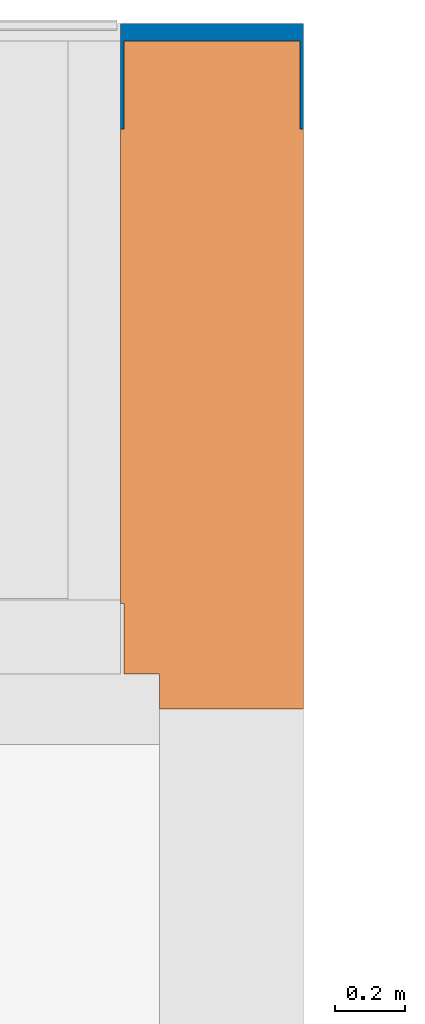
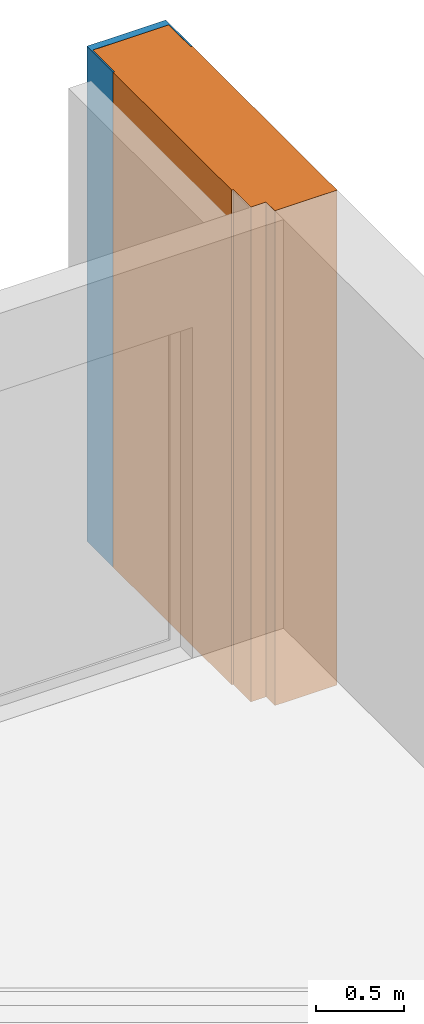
# One storey, part 67 of 67: 1 proxy, 1 wall, 1 opening.
"""IFC2X3 building model written with IfcOpenShell, lengths in millimetres."""

from ifc_helpers import new_model, entity, si_unit, converted_unit, derived_unit, money_unit, direction, frame, origin_with_axes, origin_2d_with_axis, place, context, subcontext, project, spatial, rectangle, extrude, faceted_brep, material, material_list, type_object, element, fill, save


model = new_model("IFC2X3")

# Units and contexts
model_context = context("Model", 3, precision=0.01, world=origin_with_axes(), true_north=direction((0.34421633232, 0.938890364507)))
body_context = subcontext(model_context, "Body", "Model", "MODEL_VIEW")
ifc_project = project(units=[si_unit("LENGTHUNIT", "METRE", prefix="MILLI"), si_unit("AREAUNIT", "SQUARE_METRE"), si_unit("VOLUMEUNIT", "CUBIC_METRE"), converted_unit("PLANEANGLEUNIT", "DEGREE", entity("IfcPlaneAngleMeasure", 0.0174532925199), si_unit("PLANEANGLEUNIT", "RADIAN"), dimensions=[0, 0, 0, 0, 0, 0, 0]), si_unit("SOLIDANGLEUNIT", "STERADIAN"), money_unit("USD"), converted_unit("TIMEUNIT", "Year", entity("IfcTimeMeasure", 31556926.0), si_unit("TIMEUNIT", "SECOND"), dimensions=[0, 0, 1, 0, 0, 0, 0]), si_unit("MASSUNIT", "GRAM", prefix="KILO"), si_unit("THERMODYNAMICTEMPERATUREUNIT", "DEGREE_CELSIUS"), si_unit("LUMINOUSINTENSITYUNIT", "LUMEN"), si_unit("ENERGYUNIT", "JOULE", prefix="MEGA"), derived_unit("THERMALCONDUCTANCEUNIT", [(si_unit("POWERUNIT", "WATT"), 1), (si_unit("LENGTHUNIT", "METRE"), -1), (si_unit("THERMODYNAMICTEMPERATUREUNIT", "KELVIN"), -1)]), derived_unit("SPECIFICHEATCAPACITYUNIT", [(si_unit("ENERGYUNIT", "JOULE"), 1), (si_unit("MASSUNIT", "GRAM", prefix="KILO"), -1), (si_unit("THERMODYNAMICTEMPERATUREUNIT", "KELVIN"), -1)]), derived_unit("MASSDENSITYUNIT", [(si_unit("MASSUNIT", "GRAM", prefix="KILO"), 1), (si_unit("VOLUMEUNIT", "CUBIC_METRE"), -1)])], contexts=[model_context])

# Site, building, storey
site_placement = place(None, origin_with_axes())
site = spatial("IfcSite", under=ifc_project, at=site_placement, Name="USTRONIE MORSKIE", CompositionType="ELEMENT")
building_placement = place(site_placement, origin_with_axes())
building = spatial("IfcBuilding", under=site, at=building_placement, Name="Budynek", CompositionType="ELEMENT")
storey_placement = place(building_placement, frame((0.0, 0.0, 4000.0), z_axis=(0.0, 0.0, 1.0), x_axis=(1.0, 0.0, 0.0)))
storey = spatial("IfcBuildingStorey", under=building, at=storey_placement, Name="PIĘTRO 1", CompositionType="ELEMENT", Elevation=4000.0)

# Proxy, opening, wall
ifc_material_1 = material(Name="Tynk zewnętrzny")
ifc_material_2 = material(Name="Wełna ELEW")
ifc_material_3 = material(Name="Beton konstrukcyjny B25")
ifc_material_list = material_list([ifc_material_1, ifc_material_2, ifc_material_3, ifc_material_2, ifc_material_1])
building_element_proxy_type = type_object("IfcBuildingElementProxyType", Name="BALKON bok 01 520", PredefinedType="NOTDEFINED")
proxy_placement = place(storey_placement, frame((425567.920919, 749451.184717, -600.000001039), z_axis=(0.0, 0.0, 1.0), x_axis=(0.0, 1.0, 0.0)))
proxy = element("IfcBuildingElementProxy", 1, at=proxy_placement, inside=storey, type_object=building_element_proxy_type, material=ifc_material_list, Name="Œciana-006", context=body_context, shape_type="Brep", body=[
    faceted_brep([(1950.01413776, 210.0, 3440.00000104), (300.00017689, 210.0, 3440.00000104), (300.000168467, 200.0, 3440.00000104), (1950.01413776, 200.0, 3440.00000104), (1950.01413776, 210.0, 0.0), (300.00017689, 210.0, 6.03517236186e-10), (300.000168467, 200.0, 0.0), (1950.01413776, 200.0, 0.0)], [[[0, 1, 2, 3]], [[4, 5, 1, 0]], [[5, 6, 2, 1]], [[3, 2, 6, 7]], [[0, 3, 7, 4]], [[7, 6, 5, 4]]]),
    faceted_brep([(100.000168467, 200.0, 3440.00000104), (100.000084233, 100.0, 3440.00000104), (1950.01413776, 100.0, 3440.00000104), (1950.01413776, 200.0, 3440.00000104), (100.000084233, 100.0, 9.85731940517e-07), (100.000168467, 200.0, 9.86007275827e-07), (1950.01413776, 100.0, 0.0), (1950.01413776, 200.0, 0.0)], [[[0, 1, 2, 3]], [[4, 1, 0, 5]], [[1, 4, 6, 2]], [[2, 6, 7, 3]], [[5, 0, 3, 7]], [[4, 5, 7, 6]]]),
    faceted_brep([(0.0, -100.0, 0.0), (0.0, 100.0, 0.0), (1950.01413776, 100.0, 0.0), (1950.01413776, -100.0, 0.0), (0.0, -100.0, 3440.00000104), (0.0, 100.0, 3440.00000104), (1950.01413776, 100.0, 3440.00000104), (1950.01413776, -100.0, 3440.00000104)], [[[0, 1, 2, 3]], [[4, 5, 1, 0]], [[1, 5, 6, 2]], [[7, 3, 2, 6]], [[4, 0, 3, 7]], [[5, 4, 7, 6]]]),
    faceted_brep([(0.0, -100.0, 0.0), (1950.01413776, -100.0, 0.0), (1950.01413776, -300.0, 0.0), (0.0, -300.0, 0.0), (0.0, -100.0, 3440.00000104), (1950.01413776, -100.0, 3440.00000104), (1950.01413776, -300.0, 3440.00000104), (0.0, -300.0, 3440.00000104)], [[[0, 1, 2, 3]], [[4, 5, 1, 0]], [[2, 1, 5, 6]], [[3, 2, 6, 7]], [[4, 0, 3, 7]], [[7, 6, 5, 4]]]),
    faceted_brep([(0.0, -300.0, 0.0), (1950.01413776, -300.0, 0.0), (1950.01413776, -310.0, 0.0), (0.0, -310.0, 0.0), (0.0, -300.0, 3440.00000104), (1950.01413776, -300.0, 3440.00000104), (1950.01413776, -310.0, 3440.00000104), (0.0, -310.0, 3440.00000104)], [[[0, 1, 2, 3]], [[4, 5, 1, 0]], [[2, 1, 5, 6]], [[3, 2, 6, 7]], [[4, 0, 3, 7]], [[7, 6, 5, 4]]]),
])
opening_placement = place(proxy_placement, frame((1950.01413776, 0.0, 0.0), z_axis=(0.0, 0.0, 1.0), x_axis=(1.0, 0.0, 0.0)))
opening = element("IfcOpeningElement", 2, at=opening_placement, cuts=proxy, Name="ZS1", context=body_context, shape_type="SweptSolid", body=[
    extrude(rectangle(XDim=9.99999999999, YDim=50.0000000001, at=origin_2d_with_axis()), frame((-25.0000000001, 205.0, 0.0), z_axis=(0.0, 0.0, 1.0), x_axis=(0.0, -1.0, 0.0)), (0.0, 0.0, 1.0), 3440.00000104),
    extrude(rectangle(XDim=9.99999999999, YDim=250.0, at=origin_2d_with_axis()), frame((-175.0, 205.0, 0.0), z_axis=(0.0, 0.0, 1.0), x_axis=(0.0, -1.0, 0.0)), (0.0, 0.0, 1.0), 3440.00000104),
    extrude(rectangle(XDim=9.99999999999, YDim=50.0, at=origin_2d_with_axis()), frame((-25.0, -305.0, 0.0), z_axis=(0.0, 0.0, 1.0), x_axis=(0.0, -1.0, 0.0)), (0.0, 0.0, 1.0), 3440.00000104),
    extrude(rectangle(XDim=9.99999999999, YDim=250.0, at=origin_2d_with_axis()), frame((-175.0, -305.0, 0.0), z_axis=(0.0, 0.0, 1.0), x_axis=(0.0, -1.0, 0.0)), (0.0, 0.0, 1.0), 3440.00000104),
    extrude(rectangle(XDim=500.0, YDim=50.0000000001, at=origin_2d_with_axis()), frame((-25.0000000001, -50.0, 0.0), z_axis=(0.0, 0.0, 1.0), x_axis=(0.0, -1.0, 0.0)), (0.0, 0.0, 1.0), 3440.00000104),
])
wall_type = type_object("IfcWallType", Name="Zakończenie zamknięte 23", PredefinedType="NOTDEFINED")
wall_placement = place(opening_placement, frame((-150.0, 0.0, 0.0), z_axis=(0.0, 0.0, 1.0), x_axis=(1.0, 0.0, 0.0)))
wall = element("IfcWall", 3, at=wall_placement, inside=storey, type_object=wall_type, material=ifc_material_1, Name="ZS1", context=body_context, shape_type="Brep", body=[
    faceted_brep([(150.0, 210.0, 0.0), (99.9999999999, 210.0, 0.0), (99.9999999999, 210.0, 3440.00000104), (150.0, 210.0, 3440.00000104), (150.0, 200.0, 0.0), (99.9999999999, 200.0, 0.0), (99.9999999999, 200.0, 3440.00000104), (150.0, 200.0, 3440.00000104)], [[[0, 1, 2, 3]], [[4, 5, 1, 0]], [[5, 6, 2, 1]], [[6, 7, 3, 2]], [[7, 4, 0, 3]], [[4, 7, 6, 5]]]),
    faceted_brep([(99.9999999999, 210.0, 0.0), (-150.0, 210.0, 0.0), (-150.0, 210.0, 3440.00000104), (99.9999999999, 210.0, 3440.00000104), (99.9999999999, 200.0, 0.0), (-150.0, 200.0, 0.0), (-150.0, 200.0, 3440.00000104), (99.9999999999, 200.0, 3440.00000104)], [[[0, 1, 2, 3]], [[4, 5, 1, 0]], [[5, 6, 2, 1]], [[6, 7, 3, 2]], [[7, 4, 0, 3]], [[4, 7, 6, 5]]]),
    faceted_brep([(150.0, -300.0, 0.0), (100.0, -300.0, 0.0), (100.0, -300.0, 3440.00000104), (150.0, -300.0, 3440.00000104), (150.0, -310.0, 0.0), (100.0, -310.0, 0.0), (100.0, -310.0, 3440.00000104), (150.0, -310.0, 3440.00000104)], [[[0, 1, 2, 3]], [[4, 5, 1, 0]], [[5, 6, 2, 1]], [[6, 7, 3, 2]], [[7, 4, 0, 3]], [[4, 7, 6, 5]]]),
    faceted_brep([(100.0, -300.0, 0.0), (-150.0, -300.0, 0.0), (-150.0, -300.0, 3440.00000104), (100.0, -300.0, 3440.00000104), (100.0, -310.0, 0.0), (-150.0, -310.0, 0.0), (-150.0, -310.0, 3440.00000104), (100.0, -310.0, 3440.00000104)], [[[0, 1, 2, 3]], [[4, 5, 1, 0]], [[5, 6, 2, 1]], [[6, 7, 3, 2]], [[7, 4, 0, 3]], [[4, 7, 6, 5]]]),
    faceted_brep([(150.0, 200.0, 0.0), (99.9999999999, 200.0, 0.0), (99.9999999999, 200.0, 3440.00000104), (150.0, 200.0, 3440.00000104), (150.0, -300.0, 0.0), (100.0, -300.0, 0.0), (100.0, -300.0, 3440.00000104), (150.0, -300.0, 3440.00000104)], [[[0, 1, 2, 3]], [[4, 5, 1, 0]], [[5, 6, 2, 1]], [[6, 7, 3, 2]], [[7, 4, 0, 3]], [[4, 7, 6, 5]]]),
])
fill(opening, wall)

save(model, "model.ifc")
